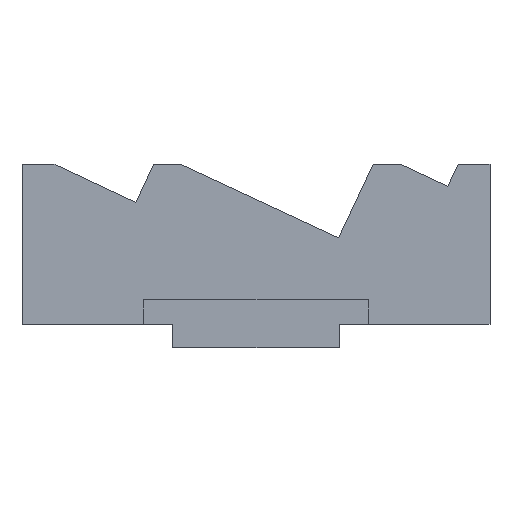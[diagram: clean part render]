
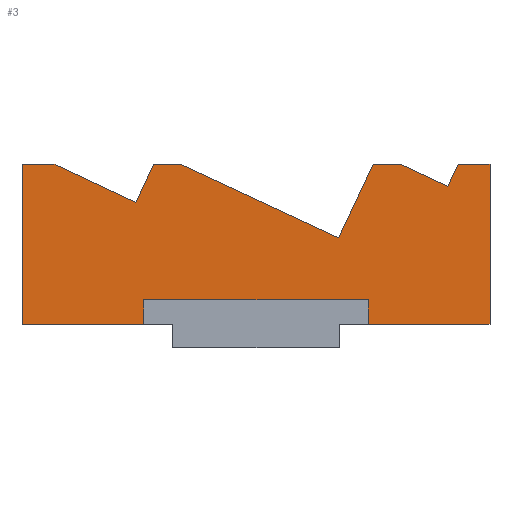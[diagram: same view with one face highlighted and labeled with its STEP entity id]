
A CAD part, left-side view. The second image highlights one B-rep face of the part: STEP entity #3.
In plain terms, the highlighted planar face has unit normal (-1, 0, 0).
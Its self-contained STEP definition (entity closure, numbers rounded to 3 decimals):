
#3 = ADVANCED_FACE ( 'NONE', ( #520 ), #666, .F. ) ;
#4 = CARTESIAN_POINT ( 'NONE',  ( 0., 35., 7.7 ) ) ;
#5 = CARTESIAN_POINT ( 'NONE',  ( 0., -45.003, 50. ) ) ;
#19 = CARTESIAN_POINT ( 'NONE',  ( 0., 31.951, 50. ) ) ;
#43 = EDGE_CURVE ( 'NONE', #204, #801, #1381, .T. ) ;
#87 = VECTOR ( 'NONE', #1509, 1000. ) ;
#95 = VERTEX_POINT ( 'NONE', #1525 ) ;
#101 = EDGE_CURVE ( 'NONE', #1198, #1318, #1511, .T. ) ;
#104 = ORIENTED_EDGE ( 'NONE', *, *, #125, .F. ) ;
#125 = EDGE_CURVE ( 'NONE', #1333, #1332, #985, .T. ) ;
#134 = CARTESIAN_POINT ( 'NONE',  ( 0., -63.018, 50. ) ) ;
#138 = DIRECTION ( 'NONE',  ( 0., -0.906, -0.423 ) ) ;
#148 = VECTOR ( 'NONE', #420, 1000. ) ;
#153 = LINE ( 'NONE', #1603, #1701 ) ;
#163 = ORIENTED_EDGE ( 'NONE', *, *, #1665, .F. ) ;
#167 = ORIENTED_EDGE ( 'NONE', *, *, #476, .T. ) ;
#170 = CARTESIAN_POINT ( 'NONE',  ( 0., -73., 0. ) ) ;
#188 = DIRECTION ( 'NONE',  ( 0., -1., 0. ) ) ;
#204 = VERTEX_POINT ( 'NONE', #610 ) ;
#218 = LINE ( 'NONE', #1063, #492 ) ;
#226 = CARTESIAN_POINT ( 'NONE',  ( 0., 37.5, 38.1 ) ) ;
#250 = ORIENTED_EDGE ( 'NONE', *, *, #1399, .F. ) ;
#258 = VECTOR ( 'NONE', #703, 1000. ) ;
#291 = CARTESIAN_POINT ( 'NONE',  ( 0., -35., 0. ) ) ;
#309 = ORIENTED_EDGE ( 'NONE', *, *, #763, .F. ) ;
#331 = EDGE_CURVE ( 'NONE', #905, #1145, #1599, .T. ) ;
#333 = CARTESIAN_POINT ( 'NONE',  ( 0., -36.525, 50. ) ) ;
#363 = LINE ( 'NONE', #226, #1644 ) ;
#368 = ORIENTED_EDGE ( 'NONE', *, *, #833, .T. ) ;
#398 = CARTESIAN_POINT ( 'NONE',  ( 0., -25.8, 27. ) ) ;
#407 = VECTOR ( 'NONE', #738, 1000. ) ;
#420 = DIRECTION ( 'NONE',  ( 0., 0., 1. ) ) ;
#441 = CARTESIAN_POINT ( 'NONE',  ( 0., -73., 0. ) ) ;
#448 = CARTESIAN_POINT ( 'NONE',  ( 0., 37.5, 38.1 ) ) ;
#476 = EDGE_CURVE ( 'NONE', #965, #1685, #571, .T. ) ;
#492 = VECTOR ( 'NONE', #1555, 1000. ) ;
#512 = ORIENTED_EDGE ( 'NONE', *, *, #893, .F. ) ;
#520 = FACE_OUTER_BOUND ( 'NONE', #1436, .T. ) ;
#523 = EDGE_CURVE ( 'NONE', #1678, #624, #825, .T. ) ;
#537 = DIRECTION ( 'NONE',  ( 0., 1., 0. ) ) ;
#540 = LINE ( 'NONE', #441, #581 ) ;
#551 = CARTESIAN_POINT ( 'NONE',  ( 0., 73., 50. ) ) ;
#564 = LINE ( 'NONE', #1255, #673 ) ;
#569 = LINE ( 'NONE', #1503, #407 ) ;
#571 = LINE ( 'NONE', #4, #148 ) ;
#581 = VECTOR ( 'NONE', #1235, 1000. ) ;
#583 = VERTEX_POINT ( 'NONE', #333 ) ;
#609 = VECTOR ( 'NONE', #964, 1000. ) ;
#610 = CARTESIAN_POINT ( 'NONE',  ( 0., -73., 50. ) ) ;
#622 = CARTESIAN_POINT ( 'NONE',  ( 0., 63.02, 50. ) ) ;
#624 = VERTEX_POINT ( 'NONE', #622 ) ;
#666 = PLANE ( 'NONE',  #1177 ) ;
#673 = VECTOR ( 'NONE', #1358, 1000. ) ;
#700 = CARTESIAN_POINT ( 'NONE',  ( 0., 73., 50. ) ) ;
#703 = DIRECTION ( 'NONE',  ( 0., 0., -1. ) ) ;
#704 = ORIENTED_EDGE ( 'NONE', *, *, #1575, .F. ) ;
#705 = CARTESIAN_POINT ( 'NONE',  ( 0., -36.525, 50. ) ) ;
#730 = LINE ( 'NONE', #19, #1178 ) ;
#738 = DIRECTION ( 'NONE',  ( 0., -1., 0. ) ) ;
#755 = VECTOR ( 'NONE', #809, 1000. ) ;
#763 = EDGE_CURVE ( 'NONE', #95, #204, #1083, .T. ) ;
#774 = DIRECTION ( 'NONE',  ( 0., -0.423, 0.906 ) ) ;
#800 = ORIENTED_EDGE ( 'NONE', *, *, #331, .F. ) ;
#801 = VERTEX_POINT ( 'NONE', #170 ) ;
#809 = DIRECTION ( 'NONE',  ( 0., -1., 0. ) ) ;
#819 = VERTEX_POINT ( 'NONE', #1654 ) ;
#825 = LINE ( 'NONE', #551, #87 ) ;
#829 = DIRECTION ( 'NONE',  ( 0., 1., 0. ) ) ;
#831 = EDGE_CURVE ( 'NONE', #819, #905, #730, .T. ) ;
#833 = EDGE_CURVE ( 'NONE', #1685, #1198, #569, .T. ) ;
#850 = ORIENTED_EDGE ( 'NONE', *, *, #101, .T. ) ;
#860 = CARTESIAN_POINT ( 'NONE',  ( 0., 23.524, 50. ) ) ;
#864 = ORIENTED_EDGE ( 'NONE', *, *, #831, .F. ) ;
#876 = LINE ( 'NONE', #990, #1376 ) ;
#893 = EDGE_CURVE ( 'NONE', #1145, #583, #876, .T. ) ;
#905 = VERTEX_POINT ( 'NONE', #860 ) ;
#911 = ORIENTED_EDGE ( 'NONE', *, *, #43, .F. ) ;
#930 = DIRECTION ( 'NONE',  ( 0., -0.906, -0.423 ) ) ;
#964 = DIRECTION ( 'NONE',  ( 0., 0., -1. ) ) ;
#965 = VERTEX_POINT ( 'NONE', #1290 ) ;
#967 = CARTESIAN_POINT ( 'NONE',  ( 0., -25.8, 27. ) ) ;
#985 = LINE ( 'NONE', #1130, #1697 ) ;
#990 = CARTESIAN_POINT ( 'NONE',  ( 0., -25.8, 27. ) ) ;
#1036 = VECTOR ( 'NONE', #1488, 1000. ) ;
#1057 = DIRECTION ( 'NONE',  ( 0., -0.906, -0.423 ) ) ;
#1063 = CARTESIAN_POINT ( 'NONE',  ( 0., 73., 0. ) ) ;
#1080 = DIRECTION ( 'NONE',  ( 1., 0., 0. ) ) ;
#1083 = LINE ( 'NONE', #134, #1036 ) ;
#1084 = EDGE_CURVE ( 'NONE', #1652, #1678, #218, .T. ) ;
#1130 = CARTESIAN_POINT ( 'NONE',  ( 0., -59.8, 43.1 ) ) ;
#1145 = VERTEX_POINT ( 'NONE', #967 ) ;
#1157 = EDGE_CURVE ( 'NONE', #801, #1318, #540, .T. ) ;
#1175 = EDGE_CURVE ( 'NONE', #965, #1652, #153, .T. ) ;
#1177 = AXIS2_PLACEMENT_3D ( 'NONE', #1204, #1080, #537 ) ;
#1178 = VECTOR ( 'NONE', #188, 1000. ) ;
#1182 = ORIENTED_EDGE ( 'NONE', *, *, #1520, .F. ) ;
#1198 = VERTEX_POINT ( 'NONE', #1501 ) ;
#1204 = CARTESIAN_POINT ( 'NONE',  ( 0., -73., 0. ) ) ;
#1235 = DIRECTION ( 'NONE',  ( 0., 1., 0. ) ) ;
#1255 = CARTESIAN_POINT ( 'NONE',  ( 0., -59.8, 43.1 ) ) ;
#1290 = CARTESIAN_POINT ( 'NONE',  ( 0., 35., 0. ) ) ;
#1297 = ORIENTED_EDGE ( 'NONE', *, *, #523, .F. ) ;
#1318 = VERTEX_POINT ( 'NONE', #291 ) ;
#1325 = ORIENTED_EDGE ( 'NONE', *, *, #1175, .F. ) ;
#1332 = VERTEX_POINT ( 'NONE', #1342 ) ;
#1333 = VERTEX_POINT ( 'NONE', #5 ) ;
#1342 = CARTESIAN_POINT ( 'NONE',  ( 0., -59.8, 43.1 ) ) ;
#1357 = ORIENTED_EDGE ( 'NONE', *, *, #1084, .F. ) ;
#1358 = DIRECTION ( 'NONE',  ( 0., -0.423, 0.906 ) ) ;
#1362 = CARTESIAN_POINT ( 'NONE',  ( 0., -73., 50. ) ) ;
#1376 = VECTOR ( 'NONE', #1514, 1000. ) ;
#1381 = LINE ( 'NONE', #1362, #609 ) ;
#1399 = EDGE_CURVE ( 'NONE', #624, #1528, #1650, .T. ) ;
#1403 = VECTOR ( 'NONE', #930, 1000. ) ;
#1436 = EDGE_LOOP ( 'NONE', ( #368, #850, #1638, #911, #309, #704, #104, #163, #512, #800, #864, #1182, #250, #1297, #1357, #1325, #167 ) ) ;
#1449 = VECTOR ( 'NONE', #1057, 1000. ) ;
#1469 = LINE ( 'NONE', #705, #755 ) ;
#1485 = CARTESIAN_POINT ( 'NONE',  ( 0., 37.5, 38.1 ) ) ;
#1488 = DIRECTION ( 'NONE',  ( 0., -1., 0. ) ) ;
#1493 = CARTESIAN_POINT ( 'NONE',  ( 0., 73., 0. ) ) ;
#1498 = CARTESIAN_POINT ( 'NONE',  ( 0., -35., 0. ) ) ;
#1501 = CARTESIAN_POINT ( 'NONE',  ( 0., -35., 7.7 ) ) ;
#1503 = CARTESIAN_POINT ( 'NONE',  ( 0., -35., 7.7 ) ) ;
#1509 = DIRECTION ( 'NONE',  ( 0., -1., 0. ) ) ;
#1511 = LINE ( 'NONE', #1498, #258 ) ;
#1514 = DIRECTION ( 'NONE',  ( 0., -0.423, 0.906 ) ) ;
#1520 = EDGE_CURVE ( 'NONE', #1528, #819, #363, .T. ) ;
#1525 = CARTESIAN_POINT ( 'NONE',  ( 0., -63.018, 50. ) ) ;
#1528 = VERTEX_POINT ( 'NONE', #1485 ) ;
#1555 = DIRECTION ( 'NONE',  ( 0., 0., 1. ) ) ;
#1575 = EDGE_CURVE ( 'NONE', #1332, #95, #564, .T. ) ;
#1599 = LINE ( 'NONE', #398, #1449 ) ;
#1603 = CARTESIAN_POINT ( 'NONE',  ( 0., -73., 0. ) ) ;
#1638 = ORIENTED_EDGE ( 'NONE', *, *, #1157, .F. ) ;
#1644 = VECTOR ( 'NONE', #774, 1000. ) ;
#1650 = LINE ( 'NONE', #448, #1403 ) ;
#1652 = VERTEX_POINT ( 'NONE', #1493 ) ;
#1654 = CARTESIAN_POINT ( 'NONE',  ( 0., 31.951, 50. ) ) ;
#1665 = EDGE_CURVE ( 'NONE', #583, #1333, #1469, .T. ) ;
#1678 = VERTEX_POINT ( 'NONE', #700 ) ;
#1685 = VERTEX_POINT ( 'NONE', #1741 ) ;
#1697 = VECTOR ( 'NONE', #138, 1000. ) ;
#1701 = VECTOR ( 'NONE', #829, 1000. ) ;
#1741 = CARTESIAN_POINT ( 'NONE',  ( 0., 35., 7.7 ) ) ;
